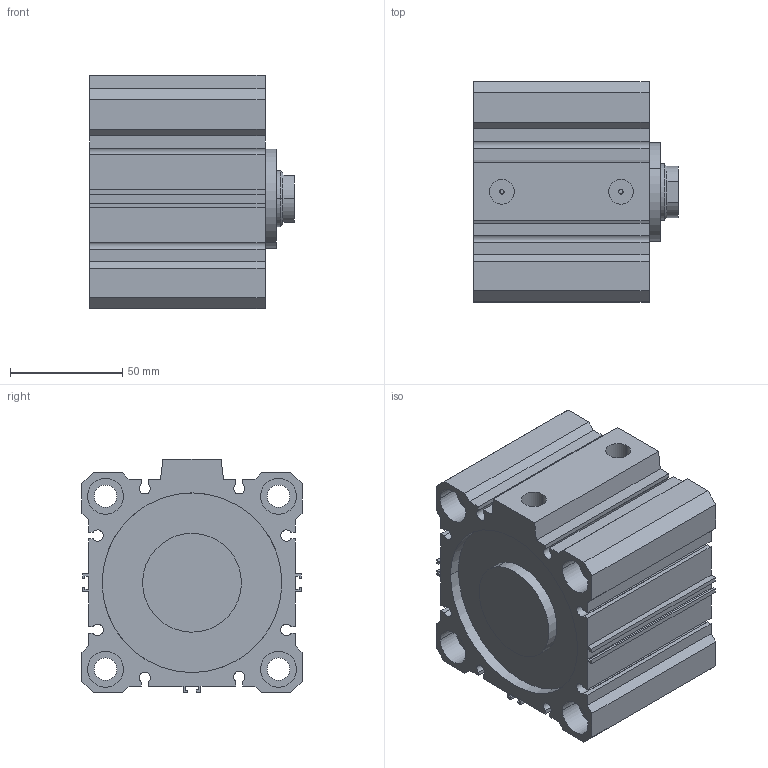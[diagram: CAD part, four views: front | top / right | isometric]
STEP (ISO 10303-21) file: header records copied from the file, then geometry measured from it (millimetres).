
FILE_DESCRIPTION(('CATIA V5 STEP Exchange'),'2;1');
FILE_NAME('D:\PDA\PDA-STP\PDA 80-25\PDA 80-25-25.stp','2016-02-02T11:03:27+00:00',('none'),('none'),'Version 5-6 Release 2012','CATIA V5 STEP AP203','none');
FILE_SCHEMA(('CONFIG_CONTROL_DESIGN'));
Length unit declared in the file: millimetre
Products named in the file (1): PDA 80-25-25-00
Assembly tree (2 placements, depth 2):
  PDA 80-25-25-00
    #58
    #4698
Bounding box: 91 x 98 x 104 mm (x, y, z)
Volume: 468802.4 mm3; surface area: 119883.7 mm2
Topology: 2 solids, 2 shells, 180 faces, 476 edges, 316 vertices
Faces by surface type: plane 114, cylinder 64, cone 2
Entity records: 5167 total; most frequent: ORIENTED_EDGE 952, CARTESIAN_POINT 930, DIRECTION 672, EDGE_CURVE 476, VECTOR 334, LINE 334, VERTEX_POINT 316, AXIS2_PLACEMENT_3D 236
